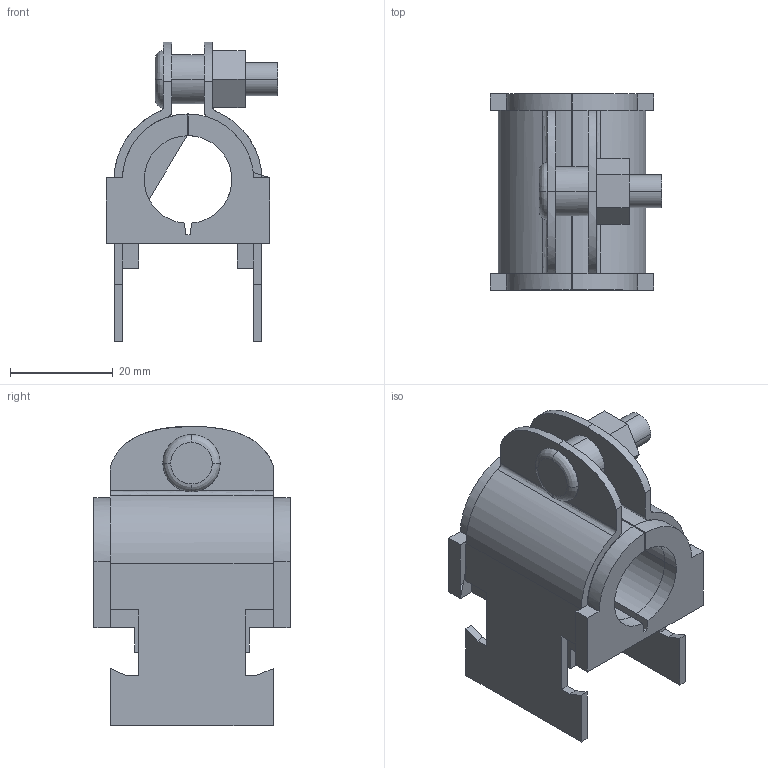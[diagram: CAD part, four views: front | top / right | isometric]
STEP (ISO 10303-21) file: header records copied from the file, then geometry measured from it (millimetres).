
FILE_DESCRIPTION(('TurboCAD Mac Pro'),'Build 980');
FILE_NAME('011N014.stp',' ',(''),(''),'ACIS Interop','IMSI','TurboCAD Mac Pro BY IMSI, INCORPORATED');
FILE_SCHEMA(('automotive_design'));
Length unit declared in the file: inch
Products named in the file (3): 1; 2; 3
Bounding box: 33.35 x 38.1 x 58.16 mm (x, y, z)
Volume: 21360.8 mm3; surface area: 15868.3 mm2
Topology: 3 solids, 3 shells, 145 faces, 397 edges, 258 vertices
Faces by surface type: plane 99, bspline 46
Entity records: 8327 total; most frequent: CARTESIAN_POINT 1796, ORIENTED_EDGE 794, STYLED_ITEM 545, PRESENTATION_STYLE_ASSIGNMENT 545, COLOUR_RGB 545, DIRECTION 492, EDGE_CURVE 397, CURVE_STYLE 397
